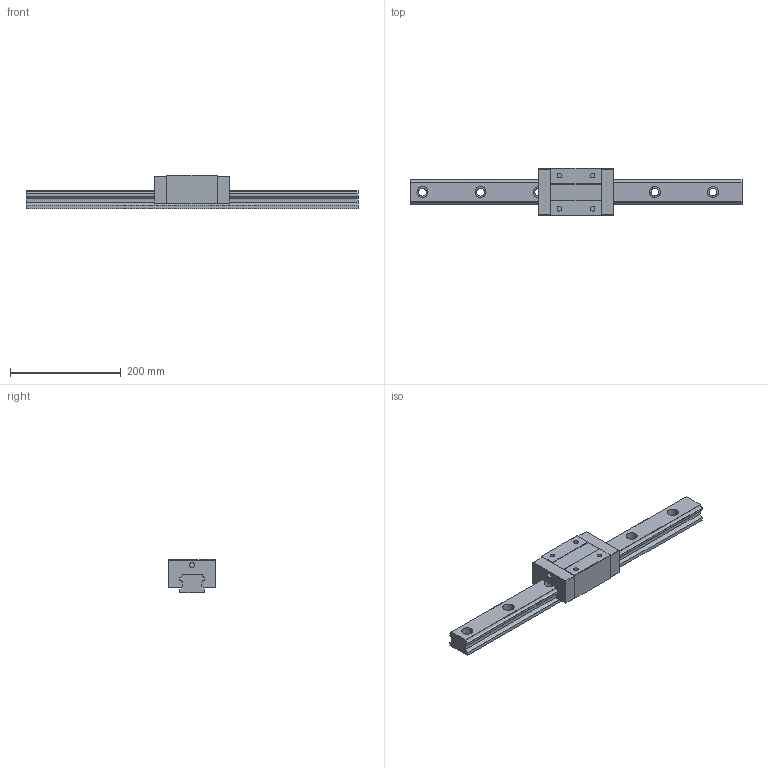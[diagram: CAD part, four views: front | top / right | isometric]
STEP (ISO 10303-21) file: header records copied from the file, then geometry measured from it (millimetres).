
FILE_DESCRIPTION (( 'STEP AP203' ), '1' );
FILE_NAME ('TRS45VN-WW-§ï.STEP', '2023-08-31T06:50:51', ( '' ), ( '' ), 'SwSTEP 2.0', 'SolidWorks 2022', '' );
FILE_SCHEMA (( 'CONFIG_CONTROL_DESIGN' ));
Length unit declared in the file: millimetre
Products named in the file (1): TRS45VN-WW-改
Bounding box: 600 x 85.5 x 60 mm (x, y, z)
Volume: 1172081.9 mm3; surface area: 152032.8 mm2
Topology: 1 solids, 1 shells, 154 faces, 424 edges, 280 vertices
Faces by surface type: plane 82, cylinder 72
Entity records: 5037 total; most frequent: DIRECTION 882, CARTESIAN_POINT 859, ORIENTED_EDGE 848, EDGE_CURVE 424, AXIS2_PLACEMENT_3D 303, VERTEX_POINT 280, VECTOR 276, LINE 276
